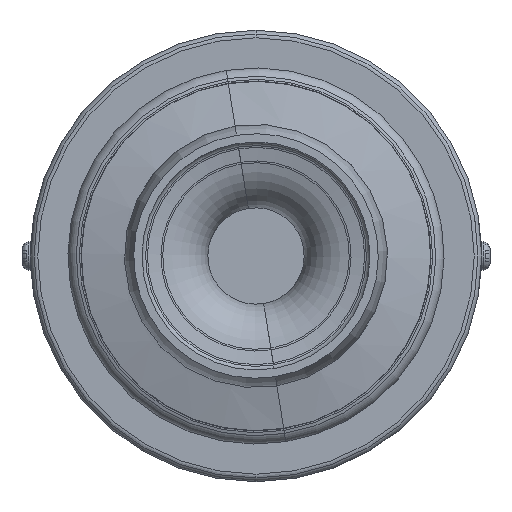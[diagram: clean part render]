
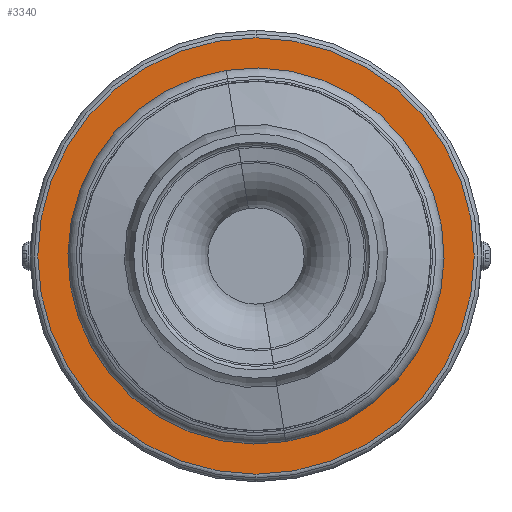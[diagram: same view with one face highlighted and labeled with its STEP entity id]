
A CAD part, front view. The second image highlights one B-rep face of the part: STEP entity #3340.
In plain terms, the highlighted planar face has unit normal (0, -1, 0).
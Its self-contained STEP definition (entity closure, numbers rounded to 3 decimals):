
#38 = DIRECTION ( 'NONE',  ( 0., -1., 0. ) ) ;
#163 = CARTESIAN_POINT ( 'NONE',  ( 0., 0., 0. ) ) ;
#200 = CARTESIAN_POINT ( 'NONE',  ( 0., 0., 58. ) ) ;
#242 = DIRECTION ( 'NONE',  ( 0., 0., -1. ) ) ;
#402 = EDGE_CURVE ( 'NONE', #3064, #5516, #6133, .T. ) ;
#500 = CARTESIAN_POINT ( 'NONE',  ( 0., 0., 0. ) ) ;
#530 = CIRCLE ( 'NONE', #4491, 58. ) ;
#633 = DIRECTION ( 'NONE',  ( 0., 0., -1. ) ) ;
#845 = CARTESIAN_POINT ( 'NONE',  ( 0., 0., -58. ) ) ;
#903 = FACE_BOUND ( 'NONE', #3532, .T. ) ;
#1008 = VERTEX_POINT ( 'NONE', #5279 ) ;
#1011 = AXIS2_PLACEMENT_3D ( 'NONE', #2808, #7978, #7188 ) ;
#1055 = EDGE_LOOP ( 'NONE', ( #2189, #3224 ) ) ;
#1649 = DIRECTION ( 'NONE',  ( 0., 0., -1. ) ) ;
#1926 = AXIS2_PLACEMENT_3D ( 'NONE', #163, #6566, #242 ) ;
#2189 = ORIENTED_EDGE ( 'NONE', *, *, #6227, .T. ) ;
#2576 = DIRECTION ( 'NONE',  ( 0., 0., -1. ) ) ;
#2690 = ORIENTED_EDGE ( 'NONE', *, *, #3258, .F. ) ;
#2808 = CARTESIAN_POINT ( 'NONE',  ( 0., 0., 0. ) ) ;
#3064 = VERTEX_POINT ( 'NONE', #200 ) ;
#3224 = ORIENTED_EDGE ( 'NONE', *, *, #402, .T. ) ;
#3258 = EDGE_CURVE ( 'NONE', #3378, #1008, #6549, .T. ) ;
#3340 = ADVANCED_FACE ( 'NONE', ( #903, #6638 ), #4212, .T. ) ;
#3378 = VERTEX_POINT ( 'NONE', #5660 ) ;
#3430 = CARTESIAN_POINT ( 'NONE',  ( 0., 0., 0. ) ) ;
#3532 = EDGE_LOOP ( 'NONE', ( #6685, #2690 ) ) ;
#4212 = PLANE ( 'NONE',  #5499 ) ;
#4491 = AXIS2_PLACEMENT_3D ( 'NONE', #6915, #38, #2576 ) ;
#4619 = CIRCLE ( 'NONE', #5932, 5.25 ) ;
#5279 = CARTESIAN_POINT ( 'NONE',  ( 0., 0., -5.25 ) ) ;
#5499 = AXIS2_PLACEMENT_3D ( 'NONE', #3430, #7313, #1649 ) ;
#5516 = VERTEX_POINT ( 'NONE', #845 ) ;
#5660 = CARTESIAN_POINT ( 'NONE',  ( 0., 0., 5.25 ) ) ;
#5932 = AXIS2_PLACEMENT_3D ( 'NONE', #500, #6250, #633 ) ;
#6133 = CIRCLE ( 'NONE', #1926, 58. ) ;
#6227 = EDGE_CURVE ( 'NONE', #5516, #3064, #530, .T. ) ;
#6250 = DIRECTION ( 'NONE',  ( 0., -1., 0. ) ) ;
#6270 = EDGE_CURVE ( 'NONE', #1008, #3378, #4619, .T. ) ;
#6549 = CIRCLE ( 'NONE', #1011, 5.25 ) ;
#6566 = DIRECTION ( 'NONE',  ( 0., -1., 0. ) ) ;
#6638 = FACE_OUTER_BOUND ( 'NONE', #1055, .T. ) ;
#6685 = ORIENTED_EDGE ( 'NONE', *, *, #6270, .F. ) ;
#6915 = CARTESIAN_POINT ( 'NONE',  ( 0., 0., 0. ) ) ;
#7188 = DIRECTION ( 'NONE',  ( 0., 0., -1. ) ) ;
#7313 = DIRECTION ( 'NONE',  ( 0., -1., 0. ) ) ;
#7978 = DIRECTION ( 'NONE',  ( 0., -1., 0. ) ) ;
